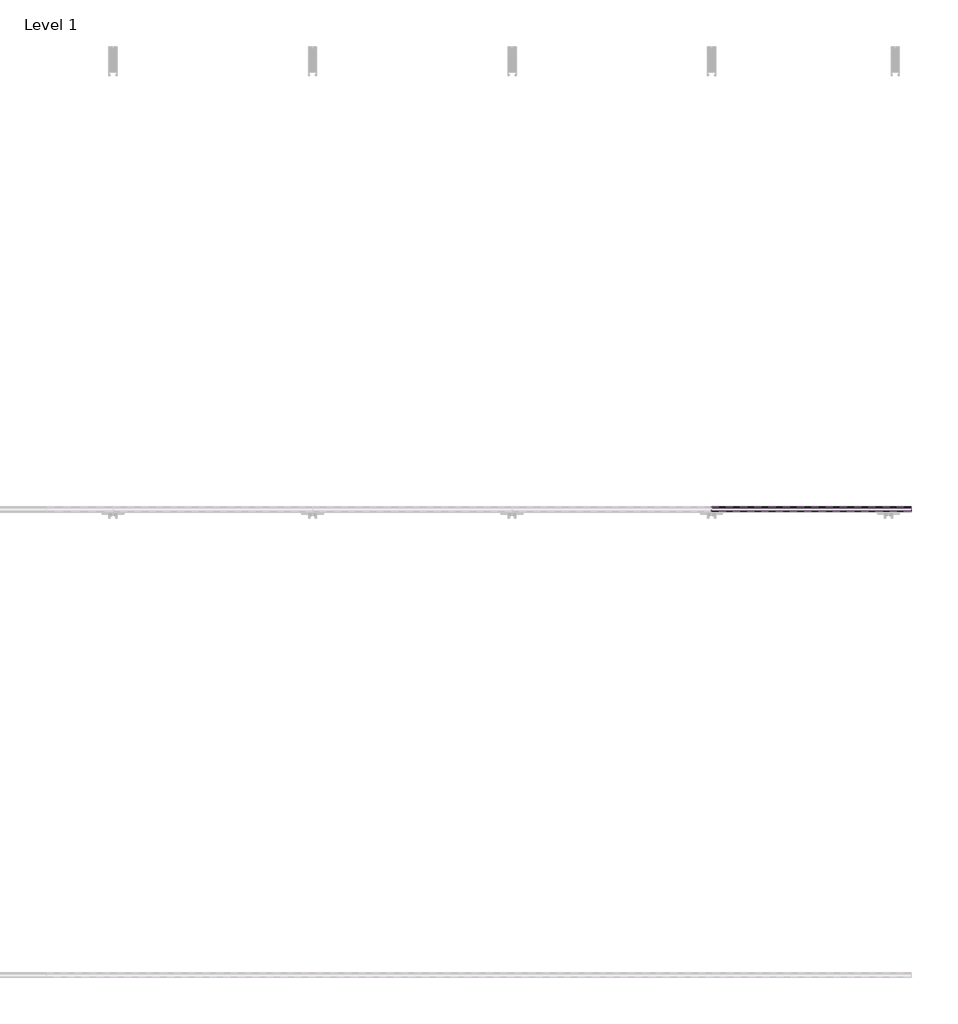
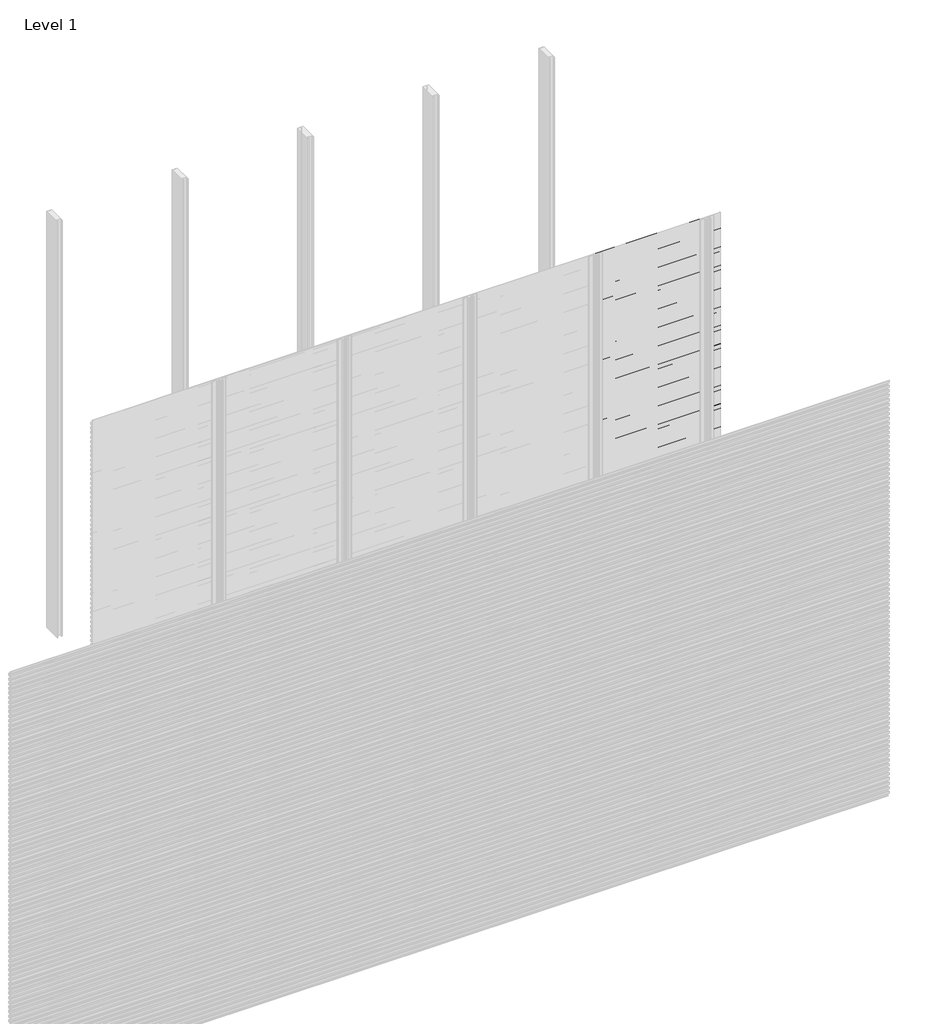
# One storey, part 12 of 96: 76 proxies.
"""IFC4 building model written with IfcOpenShell, lengths in millimetres."""

from ifc_helpers import new_model, si_unit, frame, origin, place, context, project, spatial, polyline, outline, extrude, element, save

model = new_model("IFC4")

# Units and contexts
model_context = context("Model", 3, world=origin())
ifc_project = project(units=[si_unit("LENGTHUNIT", "METRE", prefix="MILLI")], contexts=[model_context])

# Site, building, storey
site = spatial("IfcSite", under=ifc_project)
building = spatial("IfcBuilding", under=site)
storey = spatial("IfcBuildingStorey", under=building, Name="Level 1", Elevation=0.0)

# Proxies
placement = place(None, origin())
element("IfcBuildingElementProxy", 1, Name="Wall Sweeps", at=placement, inside=storey, context=model_context, shape_type="SweptSolid", body=[
    extrude(outline(polyline([(-53977.6, 107.9655033), (-53977.6, 93.6779188), (-53982.4114965, 90.9), (-53982.4114965, 92.1701706), (-53978.85, 94.2264016), (-53978.85, 107.2437382), (-53998.0, 118.3000799), (-53998.0, 133.2), (-53996.75, 133.2), (-53996.75, 119.0217609), (-53977.6, 107.9655033)])), frame((4285.7142857, 0.0, 0.0), z_axis=(1.0, 0.0, 0.0), x_axis=(0.0, 1.0, 0.0)), (0.0, 0.0, 1.0), 857.1428571),
])
element("IfcBuildingElementProxy", 2, Name="Wall Sweeps", at=placement, inside=storey, context=model_context, shape_type="SweptSolid", body=[
    extrude(outline(polyline([(-53977.6, 74.6655033), (-53977.6, 60.3779188), (-53982.4114965, 57.6), (-53982.4114965, 58.8701706), (-53978.85, 60.9264016), (-53978.85, 73.9437382), (-53998.0, 85.0000799), (-53998.0, 99.9), (-53996.75, 99.9), (-53996.75, 85.7217609), (-53977.6, 74.6655033)])), frame((4285.7142857, 0.0, 0.0), z_axis=(1.0, 0.0, 0.0), x_axis=(0.0, 1.0, 0.0)), (0.0, 0.0, 1.0), 857.1428571),
])
element("IfcBuildingElementProxy", 3, Name="Wall Sweeps", at=placement, inside=storey, context=model_context, shape_type="SweptSolid", body=[
    extrude(outline(polyline([(-53977.6, 41.3655033), (-53977.6, 27.0779188), (-53982.4114965, 24.3), (-53982.4114965, 25.5701706), (-53978.85, 27.6264016), (-53978.85, 40.6437382), (-53998.0, 51.7000799), (-53998.0, 66.6), (-53996.75, 66.6), (-53996.75, 52.4217609), (-53977.6, 41.3655033)])), frame((4285.7142857, 0.0, 0.0), z_axis=(1.0, 0.0, 0.0), x_axis=(0.0, 1.0, 0.0)), (0.0, 0.0, 1.0), 857.1428571),
])
element("IfcBuildingElementProxy", 4, Name="Wall Sweeps", at=placement, inside=storey, context=model_context, shape_type="SweptSolid", body=[
    extrude(outline(polyline([(-53977.6, 8.0655033), (-53977.6, -6.2220812), (-53982.4114965, -9.0), (-53982.4114965, -7.7298294), (-53978.85, -5.6735984), (-53978.85, 7.3437382), (-53998.0, 18.4000799), (-53998.0, 33.3), (-53996.75, 33.3), (-53996.75, 19.1217609), (-53977.6, 8.0655033)])), frame((4285.7142857, 0.0, 0.0), z_axis=(1.0, 0.0, 0.0), x_axis=(0.0, 1.0, 0.0)), (0.0, 0.0, 1.0), 857.1428571),
])
element("IfcBuildingElementProxy", 5, Name="Wall Sweeps", at=placement, inside=storey, context=model_context, shape_type="SweptSolid", body=[
    extrude(outline(polyline([(-53977.6, 2971.7655033), (-53977.6, 2957.4779188), (-53982.4114965, 2954.7), (-53982.4114965, 2955.9701706), (-53978.85, 2958.0264016), (-53978.85, 2971.0437382), (-53998.0, 2982.1000799), (-53998.0, 2997.0), (-53996.75, 2997.0), (-53996.75, 2982.8217609), (-53977.6, 2971.7655033)])), frame((5142.8571429, 0.0, 0.0), z_axis=(1.0, 0.0, 0.0), x_axis=(0.0, 1.0, 0.0)), (0.0, 0.0, 1.0), 857.1428571),
])
element("IfcBuildingElementProxy", 6, Name="Wall Sweeps", at=placement, inside=storey, context=model_context, shape_type="SweptSolid", body=[
    extrude(outline(polyline([(-53977.6, 2938.4655033), (-53977.6, 2924.1779188), (-53982.4114965, 2921.4), (-53982.4114965, 2922.6701706), (-53978.85, 2924.7264016), (-53978.85, 2937.7437382), (-53998.0, 2948.8000799), (-53998.0, 2963.7), (-53996.75, 2963.7), (-53996.75, 2949.5217609), (-53977.6, 2938.4655033)])), frame((5142.8571429, 0.0, 0.0), z_axis=(1.0, 0.0, 0.0), x_axis=(0.0, 1.0, 0.0)), (0.0, 0.0, 1.0), 857.1428571),
])
element("IfcBuildingElementProxy", 7, Name="Wall Sweeps", at=placement, inside=storey, context=model_context, shape_type="SweptSolid", body=[
    extrude(outline(polyline([(-53977.6, 2905.1655033), (-53977.6, 2890.8779188), (-53982.4114965, 2888.1), (-53982.4114965, 2889.3701706), (-53978.85, 2891.4264016), (-53978.85, 2904.4437382), (-53998.0, 2915.5000799), (-53998.0, 2930.4), (-53996.75, 2930.4), (-53996.75, 2916.2217609), (-53977.6, 2905.1655033)])), frame((5142.8571429, 0.0, 0.0), z_axis=(1.0, 0.0, 0.0), x_axis=(0.0, 1.0, 0.0)), (0.0, 0.0, 1.0), 857.1428571),
])
element("IfcBuildingElementProxy", 8, Name="Wall Sweeps", at=placement, inside=storey, context=model_context, shape_type="SweptSolid", body=[
    extrude(outline(polyline([(-53977.6, 2871.8655033), (-53977.6, 2857.5779188), (-53982.4114965, 2854.8), (-53982.4114965, 2856.0701706), (-53978.85, 2858.1264016), (-53978.85, 2871.1437382), (-53998.0, 2882.2000799), (-53998.0, 2897.1), (-53996.75, 2897.1), (-53996.75, 2882.9217609), (-53977.6, 2871.8655033)])), frame((5142.8571429, 0.0, 0.0), z_axis=(1.0, 0.0, 0.0), x_axis=(0.0, 1.0, 0.0)), (0.0, 0.0, 1.0), 857.1428571),
])
element("IfcBuildingElementProxy", 9, Name="Wall Sweeps", at=placement, inside=storey, context=model_context, shape_type="SweptSolid", body=[
    extrude(outline(polyline([(-53977.6, 2838.5655033), (-53977.6, 2824.2779188), (-53982.4114965, 2821.5), (-53982.4114965, 2822.7701706), (-53978.85, 2824.8264016), (-53978.85, 2837.8437382), (-53998.0, 2848.9000799), (-53998.0, 2863.8), (-53996.75, 2863.8), (-53996.75, 2849.6217609), (-53977.6, 2838.5655033)])), frame((5142.8571429, 0.0, 0.0), z_axis=(1.0, 0.0, 0.0), x_axis=(0.0, 1.0, 0.0)), (0.0, 0.0, 1.0), 857.1428571),
])
element("IfcBuildingElementProxy", 10, Name="Wall Sweeps", at=placement, inside=storey, context=model_context, shape_type="SweptSolid", body=[
    extrude(outline(polyline([(-53977.6, 2805.2655033), (-53977.6, 2790.9779188), (-53982.4114965, 2788.2), (-53982.4114965, 2789.4701706), (-53978.85, 2791.5264016), (-53978.85, 2804.5437382), (-53998.0, 2815.6000799), (-53998.0, 2830.5), (-53996.75, 2830.5), (-53996.75, 2816.3217609), (-53977.6, 2805.2655033)])), frame((5142.8571429, 0.0, 0.0), z_axis=(1.0, 0.0, 0.0), x_axis=(0.0, 1.0, 0.0)), (0.0, 0.0, 1.0), 857.1428571),
])
element("IfcBuildingElementProxy", 11, Name="Wall Sweeps", at=placement, inside=storey, context=model_context, shape_type="SweptSolid", body=[
    extrude(outline(polyline([(-53977.6, 2771.9655033), (-53977.6, 2757.6779188), (-53982.4114965, 2754.9), (-53982.4114965, 2756.1701706), (-53978.85, 2758.2264016), (-53978.85, 2771.2437382), (-53998.0, 2782.3000799), (-53998.0, 2797.2), (-53996.75, 2797.2), (-53996.75, 2783.0217609), (-53977.6, 2771.9655033)])), frame((5142.8571429, 0.0, 0.0), z_axis=(1.0, 0.0, 0.0), x_axis=(0.0, 1.0, 0.0)), (0.0, 0.0, 1.0), 857.1428571),
])
element("IfcBuildingElementProxy", 12, Name="Wall Sweeps", at=placement, inside=storey, context=model_context, shape_type="SweptSolid", body=[
    extrude(outline(polyline([(-53977.6, 2738.6655033), (-53977.6, 2724.3779188), (-53982.4114965, 2721.6), (-53982.4114965, 2722.8701706), (-53978.85, 2724.9264016), (-53978.85, 2737.9437382), (-53998.0, 2749.0000799), (-53998.0, 2763.9), (-53996.75, 2763.9), (-53996.75, 2749.7217609), (-53977.6, 2738.6655033)])), frame((5142.8571429, 0.0, 0.0), z_axis=(1.0, 0.0, 0.0), x_axis=(0.0, 1.0, 0.0)), (0.0, 0.0, 1.0), 857.1428571),
])
element("IfcBuildingElementProxy", 13, Name="Wall Sweeps", at=placement, inside=storey, context=model_context, shape_type="SweptSolid", body=[
    extrude(outline(polyline([(-53977.6, 2705.3655033), (-53977.6, 2691.0779188), (-53982.4114965, 2688.3), (-53982.4114965, 2689.5701706), (-53978.85, 2691.6264016), (-53978.85, 2704.6437382), (-53998.0, 2715.7000799), (-53998.0, 2730.6), (-53996.75, 2730.6), (-53996.75, 2716.4217609), (-53977.6, 2705.3655033)])), frame((5142.8571429, 0.0, 0.0), z_axis=(1.0, 0.0, 0.0), x_axis=(0.0, 1.0, 0.0)), (0.0, 0.0, 1.0), 857.1428571),
])
element("IfcBuildingElementProxy", 14, Name="Wall Sweeps", at=placement, inside=storey, context=model_context, shape_type="SweptSolid", body=[
    extrude(outline(polyline([(-53977.6, 2672.0655033), (-53977.6, 2657.7779188), (-53982.4114965, 2655.0), (-53982.4114965, 2656.2701706), (-53978.85, 2658.3264016), (-53978.85, 2671.3437382), (-53998.0, 2682.4000799), (-53998.0, 2697.3), (-53996.75, 2697.3), (-53996.75, 2683.1217609), (-53977.6, 2672.0655033)])), frame((5142.8571429, 0.0, 0.0), z_axis=(1.0, 0.0, 0.0), x_axis=(0.0, 1.0, 0.0)), (0.0, 0.0, 1.0), 857.1428571),
])
element("IfcBuildingElementProxy", 15, Name="Wall Sweeps", at=placement, inside=storey, context=model_context, shape_type="SweptSolid", body=[
    extrude(outline(polyline([(-53977.6, 2638.7655033), (-53977.6, 2624.4779188), (-53982.4114965, 2621.7), (-53982.4114965, 2622.9701706), (-53978.85, 2625.0264016), (-53978.85, 2638.0437382), (-53998.0, 2649.1000799), (-53998.0, 2664.0), (-53996.75, 2664.0), (-53996.75, 2649.8217609), (-53977.6, 2638.7655033)])), frame((5142.8571429, 0.0, 0.0), z_axis=(1.0, 0.0, 0.0), x_axis=(0.0, 1.0, 0.0)), (0.0, 0.0, 1.0), 857.1428571),
])
element("IfcBuildingElementProxy", 16, Name="Wall Sweeps", at=placement, inside=storey, context=model_context, shape_type="SweptSolid", body=[
    extrude(outline(polyline([(-53977.6, 2605.4655033), (-53977.6, 2591.1779188), (-53982.4114965, 2588.4), (-53982.4114965, 2589.6701706), (-53978.85, 2591.7264016), (-53978.85, 2604.7437382), (-53998.0, 2615.8000799), (-53998.0, 2630.7), (-53996.75, 2630.7), (-53996.75, 2616.5217609), (-53977.6, 2605.4655033)])), frame((5142.8571429, 0.0, 0.0), z_axis=(1.0, 0.0, 0.0), x_axis=(0.0, 1.0, 0.0)), (0.0, 0.0, 1.0), 857.1428571),
])
element("IfcBuildingElementProxy", 17, Name="Wall Sweeps", at=placement, inside=storey, context=model_context, shape_type="SweptSolid", body=[
    extrude(outline(polyline([(-53977.6, 2572.1655033), (-53977.6, 2557.8779188), (-53982.4114965, 2555.1), (-53982.4114965, 2556.3701706), (-53978.85, 2558.4264016), (-53978.85, 2571.4437382), (-53998.0, 2582.5000799), (-53998.0, 2597.4), (-53996.75, 2597.4), (-53996.75, 2583.2217609), (-53977.6, 2572.1655033)])), frame((5142.8571429, 0.0, 0.0), z_axis=(1.0, 0.0, 0.0), x_axis=(0.0, 1.0, 0.0)), (0.0, 0.0, 1.0), 857.1428571),
])
element("IfcBuildingElementProxy", 18, Name="Wall Sweeps", at=placement, inside=storey, context=model_context, shape_type="SweptSolid", body=[
    extrude(outline(polyline([(-53977.6, 2538.8655033), (-53977.6, 2524.5779188), (-53982.4114965, 2521.8), (-53982.4114965, 2523.0701706), (-53978.85, 2525.1264016), (-53978.85, 2538.1437382), (-53998.0, 2549.2000799), (-53998.0, 2564.1), (-53996.75, 2564.1), (-53996.75, 2549.9217609), (-53977.6, 2538.8655033)])), frame((5142.8571429, 0.0, 0.0), z_axis=(1.0, 0.0, 0.0), x_axis=(0.0, 1.0, 0.0)), (0.0, 0.0, 1.0), 857.1428571),
])
element("IfcBuildingElementProxy", 19, Name="Wall Sweeps", at=placement, inside=storey, context=model_context, shape_type="SweptSolid", body=[
    extrude(outline(polyline([(-53977.6, 2505.5655033), (-53977.6, 2491.2779188), (-53982.4114965, 2488.5), (-53982.4114965, 2489.7701706), (-53978.85, 2491.8264016), (-53978.85, 2504.8437382), (-53998.0, 2515.9000799), (-53998.0, 2530.8), (-53996.75, 2530.8), (-53996.75, 2516.6217609), (-53977.6, 2505.5655033)])), frame((5142.8571429, 0.0, 0.0), z_axis=(1.0, 0.0, 0.0), x_axis=(0.0, 1.0, 0.0)), (0.0, 0.0, 1.0), 857.1428571),
])
element("IfcBuildingElementProxy", 20, Name="Wall Sweeps", at=placement, inside=storey, context=model_context, shape_type="SweptSolid", body=[
    extrude(outline(polyline([(-53977.6, 2472.2655033), (-53977.6, 2457.9779188), (-53982.4114965, 2455.2), (-53982.4114965, 2456.4701706), (-53978.85, 2458.5264016), (-53978.85, 2471.5437382), (-53998.0, 2482.6000799), (-53998.0, 2497.5), (-53996.75, 2497.5), (-53996.75, 2483.3217609), (-53977.6, 2472.2655033)])), frame((5142.8571429, 0.0, 0.0), z_axis=(1.0, 0.0, 0.0), x_axis=(0.0, 1.0, 0.0)), (0.0, 0.0, 1.0), 857.1428571),
])
element("IfcBuildingElementProxy", 21, Name="Wall Sweeps", at=placement, inside=storey, context=model_context, shape_type="SweptSolid", body=[
    extrude(outline(polyline([(-53977.6, 2438.9655033), (-53977.6, 2424.6779188), (-53982.4114965, 2421.9), (-53982.4114965, 2423.1701706), (-53978.85, 2425.2264016), (-53978.85, 2438.2437382), (-53998.0, 2449.3000799), (-53998.0, 2464.2), (-53996.75, 2464.2), (-53996.75, 2450.0217609), (-53977.6, 2438.9655033)])), frame((5142.8571429, 0.0, 0.0), z_axis=(1.0, 0.0, 0.0), x_axis=(0.0, 1.0, 0.0)), (0.0, 0.0, 1.0), 857.1428571),
])
element("IfcBuildingElementProxy", 22, Name="Wall Sweeps", at=placement, inside=storey, context=model_context, shape_type="SweptSolid", body=[
    extrude(outline(polyline([(-53977.6, 2405.6655033), (-53977.6, 2391.3779188), (-53982.4114965, 2388.6), (-53982.4114965, 2389.8701706), (-53978.85, 2391.9264016), (-53978.85, 2404.9437382), (-53998.0, 2416.0000799), (-53998.0, 2430.9), (-53996.75, 2430.9), (-53996.75, 2416.7217609), (-53977.6, 2405.6655033)])), frame((5142.8571429, 0.0, 0.0), z_axis=(1.0, 0.0, 0.0), x_axis=(0.0, 1.0, 0.0)), (0.0, 0.0, 1.0), 857.1428571),
])
element("IfcBuildingElementProxy", 23, Name="Wall Sweeps", at=placement, inside=storey, context=model_context, shape_type="SweptSolid", body=[
    extrude(outline(polyline([(-53977.6, 2372.3655033), (-53977.6, 2358.0779188), (-53982.4114965, 2355.3), (-53982.4114965, 2356.5701706), (-53978.85, 2358.6264016), (-53978.85, 2371.6437382), (-53998.0, 2382.7000799), (-53998.0, 2397.6), (-53996.75, 2397.6), (-53996.75, 2383.4217609), (-53977.6, 2372.3655033)])), frame((5142.8571429, 0.0, 0.0), z_axis=(1.0, 0.0, 0.0), x_axis=(0.0, 1.0, 0.0)), (0.0, 0.0, 1.0), 857.1428571),
])
element("IfcBuildingElementProxy", 24, Name="Wall Sweeps", at=placement, inside=storey, context=model_context, shape_type="SweptSolid", body=[
    extrude(outline(polyline([(-53977.6, 2339.0655033), (-53977.6, 2324.7779188), (-53982.4114965, 2322.0), (-53982.4114965, 2323.2701706), (-53978.85, 2325.3264016), (-53978.85, 2338.3437382), (-53998.0, 2349.4000799), (-53998.0, 2364.3), (-53996.75, 2364.3), (-53996.75, 2350.1217609), (-53977.6, 2339.0655033)])), frame((5142.8571429, 0.0, 0.0), z_axis=(1.0, 0.0, 0.0), x_axis=(0.0, 1.0, 0.0)), (0.0, 0.0, 1.0), 857.1428571),
])
element("IfcBuildingElementProxy", 25, Name="Wall Sweeps", at=placement, inside=storey, context=model_context, shape_type="SweptSolid", body=[
    extrude(outline(polyline([(-53977.6, 2305.7655033), (-53977.6, 2291.4779188), (-53982.4114965, 2288.7), (-53982.4114965, 2289.9701706), (-53978.85, 2292.0264016), (-53978.85, 2305.0437382), (-53998.0, 2316.1000799), (-53998.0, 2331.0), (-53996.75, 2331.0), (-53996.75, 2316.8217609), (-53977.6, 2305.7655033)])), frame((5142.8571429, 0.0, 0.0), z_axis=(1.0, 0.0, 0.0), x_axis=(0.0, 1.0, 0.0)), (0.0, 0.0, 1.0), 857.1428571),
])
element("IfcBuildingElementProxy", 26, Name="Wall Sweeps", at=placement, inside=storey, context=model_context, shape_type="SweptSolid", body=[
    extrude(outline(polyline([(-53977.6, 2272.4655033), (-53977.6, 2258.1779188), (-53982.4114965, 2255.4), (-53982.4114965, 2256.6701706), (-53978.85, 2258.7264016), (-53978.85, 2271.7437382), (-53998.0, 2282.8000799), (-53998.0, 2297.7), (-53996.75, 2297.7), (-53996.75, 2283.5217609), (-53977.6, 2272.4655033)])), frame((5142.8571429, 0.0, 0.0), z_axis=(1.0, 0.0, 0.0), x_axis=(0.0, 1.0, 0.0)), (0.0, 0.0, 1.0), 857.1428571),
])
element("IfcBuildingElementProxy", 27, Name="Wall Sweeps", at=placement, inside=storey, context=model_context, shape_type="SweptSolid", body=[
    extrude(outline(polyline([(-53977.6, 2239.1655033), (-53977.6, 2224.8779188), (-53982.4114965, 2222.1), (-53982.4114965, 2223.3701706), (-53978.85, 2225.4264016), (-53978.85, 2238.4437382), (-53998.0, 2249.5000799), (-53998.0, 2264.4), (-53996.75, 2264.4), (-53996.75, 2250.2217609), (-53977.6, 2239.1655033)])), frame((5142.8571429, 0.0, 0.0), z_axis=(1.0, 0.0, 0.0), x_axis=(0.0, 1.0, 0.0)), (0.0, 0.0, 1.0), 857.1428571),
])
element("IfcBuildingElementProxy", 28, Name="Wall Sweeps", at=placement, inside=storey, context=model_context, shape_type="SweptSolid", body=[
    extrude(outline(polyline([(-53977.6, 2205.8655033), (-53977.6, 2191.5779188), (-53982.4114965, 2188.8), (-53982.4114965, 2190.0701706), (-53978.85, 2192.1264016), (-53978.85, 2205.1437382), (-53998.0, 2216.2000799), (-53998.0, 2231.1), (-53996.75, 2231.1), (-53996.75, 2216.9217609), (-53977.6, 2205.8655033)])), frame((5142.8571429, 0.0, 0.0), z_axis=(1.0, 0.0, 0.0), x_axis=(0.0, 1.0, 0.0)), (0.0, 0.0, 1.0), 857.1428571),
])
element("IfcBuildingElementProxy", 29, Name="Wall Sweeps", at=placement, inside=storey, context=model_context, shape_type="SweptSolid", body=[
    extrude(outline(polyline([(-53977.6, 2172.5655033), (-53977.6, 2158.2779188), (-53982.4114965, 2155.5), (-53982.4114965, 2156.7701706), (-53978.85, 2158.8264016), (-53978.85, 2171.8437382), (-53998.0, 2182.9000799), (-53998.0, 2197.8), (-53996.75, 2197.8), (-53996.75, 2183.6217609), (-53977.6, 2172.5655033)])), frame((5142.8571429, 0.0, 0.0), z_axis=(1.0, 0.0, 0.0), x_axis=(0.0, 1.0, 0.0)), (0.0, 0.0, 1.0), 857.1428571),
])
element("IfcBuildingElementProxy", 30, Name="Wall Sweeps", at=placement, inside=storey, context=model_context, shape_type="SweptSolid", body=[
    extrude(outline(polyline([(-53977.6, 2139.2655033), (-53977.6, 2124.9779188), (-53982.4114965, 2122.2), (-53982.4114965, 2123.4701706), (-53978.85, 2125.5264016), (-53978.85, 2138.5437382), (-53998.0, 2149.6000799), (-53998.0, 2164.5), (-53996.75, 2164.5), (-53996.75, 2150.3217609), (-53977.6, 2139.2655033)])), frame((5142.8571429, 0.0, 0.0), z_axis=(1.0, 0.0, 0.0), x_axis=(0.0, 1.0, 0.0)), (0.0, 0.0, 1.0), 857.1428571),
])
element("IfcBuildingElementProxy", 31, Name="Wall Sweeps", at=placement, inside=storey, context=model_context, shape_type="SweptSolid", body=[
    extrude(outline(polyline([(-53977.6, 2105.9655033), (-53977.6, 2091.6779188), (-53982.4114965, 2088.9), (-53982.4114965, 2090.1701706), (-53978.85, 2092.2264016), (-53978.85, 2105.2437382), (-53998.0, 2116.3000799), (-53998.0, 2131.2), (-53996.75, 2131.2), (-53996.75, 2117.0217609), (-53977.6, 2105.9655033)])), frame((5142.8571429, 0.0, 0.0), z_axis=(1.0, 0.0, 0.0), x_axis=(0.0, 1.0, 0.0)), (0.0, 0.0, 1.0), 857.1428571),
])
element("IfcBuildingElementProxy", 32, Name="Wall Sweeps", at=placement, inside=storey, context=model_context, shape_type="SweptSolid", body=[
    extrude(outline(polyline([(-53977.6, 2072.6655033), (-53977.6, 2058.3779188), (-53982.4114965, 2055.6), (-53982.4114965, 2056.8701706), (-53978.85, 2058.9264016), (-53978.85, 2071.9437382), (-53998.0, 2083.0000799), (-53998.0, 2097.9), (-53996.75, 2097.9), (-53996.75, 2083.7217609), (-53977.6, 2072.6655033)])), frame((5142.8571429, 0.0, 0.0), z_axis=(1.0, 0.0, 0.0), x_axis=(0.0, 1.0, 0.0)), (0.0, 0.0, 1.0), 857.1428571),
])
element("IfcBuildingElementProxy", 33, Name="Wall Sweeps", at=placement, inside=storey, context=model_context, shape_type="SweptSolid", body=[
    extrude(outline(polyline([(-53977.6, 2039.3655033), (-53977.6, 2025.0779188), (-53982.4114965, 2022.3), (-53982.4114965, 2023.5701706), (-53978.85, 2025.6264016), (-53978.85, 2038.6437382), (-53998.0, 2049.7000799), (-53998.0, 2064.6), (-53996.75, 2064.6), (-53996.75, 2050.4217609), (-53977.6, 2039.3655033)])), frame((5142.8571429, 0.0, 0.0), z_axis=(1.0, 0.0, 0.0), x_axis=(0.0, 1.0, 0.0)), (0.0, 0.0, 1.0), 857.1428571),
])
element("IfcBuildingElementProxy", 34, Name="Wall Sweeps", at=placement, inside=storey, context=model_context, shape_type="SweptSolid", body=[
    extrude(outline(polyline([(-53977.6, 2006.0655033), (-53977.6, 1991.7779188), (-53982.4114965, 1989.0), (-53982.4114965, 1990.2701706), (-53978.85, 1992.3264016), (-53978.85, 2005.3437382), (-53998.0, 2016.4000799), (-53998.0, 2031.3), (-53996.75, 2031.3), (-53996.75, 2017.1217609), (-53977.6, 2006.0655033)])), frame((5142.8571429, 0.0, 0.0), z_axis=(1.0, 0.0, 0.0), x_axis=(0.0, 1.0, 0.0)), (0.0, 0.0, 1.0), 857.1428571),
])
element("IfcBuildingElementProxy", 35, Name="Wall Sweeps", at=placement, inside=storey, context=model_context, shape_type="SweptSolid", body=[
    extrude(outline(polyline([(-53977.6, 1972.7655033), (-53977.6, 1958.4779188), (-53982.4114965, 1955.7), (-53982.4114965, 1956.9701706), (-53978.85, 1959.0264016), (-53978.85, 1972.0437382), (-53998.0, 1983.1000799), (-53998.0, 1998.0), (-53996.75, 1998.0), (-53996.75, 1983.8217609), (-53977.6, 1972.7655033)])), frame((5142.8571429, 0.0, 0.0), z_axis=(1.0, 0.0, 0.0), x_axis=(0.0, 1.0, 0.0)), (0.0, 0.0, 1.0), 857.1428571),
])
element("IfcBuildingElementProxy", 36, Name="Wall Sweeps", at=placement, inside=storey, context=model_context, shape_type="SweptSolid", body=[
    extrude(outline(polyline([(-53977.6, 1939.4655033), (-53977.6, 1925.1779188), (-53982.4114965, 1922.4), (-53982.4114965, 1923.6701706), (-53978.85, 1925.7264016), (-53978.85, 1938.7437382), (-53998.0, 1949.8000799), (-53998.0, 1964.7), (-53996.75, 1964.7), (-53996.75, 1950.5217609), (-53977.6, 1939.4655033)])), frame((5142.8571429, 0.0, 0.0), z_axis=(1.0, 0.0, 0.0), x_axis=(0.0, 1.0, 0.0)), (0.0, 0.0, 1.0), 857.1428571),
])
element("IfcBuildingElementProxy", 37, Name="Wall Sweeps", at=placement, inside=storey, context=model_context, shape_type="SweptSolid", body=[
    extrude(outline(polyline([(-53977.6, 1906.1655033), (-53977.6, 1891.8779188), (-53982.4114965, 1889.1), (-53982.4114965, 1890.3701706), (-53978.85, 1892.4264016), (-53978.85, 1905.4437382), (-53998.0, 1916.5000799), (-53998.0, 1931.4), (-53996.75, 1931.4), (-53996.75, 1917.2217609), (-53977.6, 1906.1655033)])), frame((5142.8571429, 0.0, 0.0), z_axis=(1.0, 0.0, 0.0), x_axis=(0.0, 1.0, 0.0)), (0.0, 0.0, 1.0), 857.1428571),
])
element("IfcBuildingElementProxy", 38, Name="Wall Sweeps", at=placement, inside=storey, context=model_context, shape_type="SweptSolid", body=[
    extrude(outline(polyline([(-53977.6, 1872.8655033), (-53977.6, 1858.5779188), (-53982.4114965, 1855.8), (-53982.4114965, 1857.0701706), (-53978.85, 1859.1264016), (-53978.85, 1872.1437382), (-53998.0, 1883.2000799), (-53998.0, 1898.1), (-53996.75, 1898.1), (-53996.75, 1883.9217609), (-53977.6, 1872.8655033)])), frame((5142.8571429, 0.0, 0.0), z_axis=(1.0, 0.0, 0.0), x_axis=(0.0, 1.0, 0.0)), (0.0, 0.0, 1.0), 857.1428571),
])
element("IfcBuildingElementProxy", 39, Name="Wall Sweeps", at=placement, inside=storey, context=model_context, shape_type="SweptSolid", body=[
    extrude(outline(polyline([(-53977.6, 1839.5655033), (-53977.6, 1825.2779188), (-53982.4114965, 1822.5), (-53982.4114965, 1823.7701706), (-53978.85, 1825.8264016), (-53978.85, 1838.8437382), (-53998.0, 1849.9000799), (-53998.0, 1864.8), (-53996.75, 1864.8), (-53996.75, 1850.6217609), (-53977.6, 1839.5655033)])), frame((5142.8571429, 0.0, 0.0), z_axis=(1.0, 0.0, 0.0), x_axis=(0.0, 1.0, 0.0)), (0.0, 0.0, 1.0), 857.1428571),
])
element("IfcBuildingElementProxy", 40, Name="Wall Sweeps", at=placement, inside=storey, context=model_context, shape_type="SweptSolid", body=[
    extrude(outline(polyline([(-53977.6, 1806.2655033), (-53977.6, 1791.9779188), (-53982.4114965, 1789.2), (-53982.4114965, 1790.4701706), (-53978.85, 1792.5264016), (-53978.85, 1805.5437382), (-53998.0, 1816.6000799), (-53998.0, 1831.5), (-53996.75, 1831.5), (-53996.75, 1817.3217609), (-53977.6, 1806.2655033)])), frame((5142.8571429, 0.0, 0.0), z_axis=(1.0, 0.0, 0.0), x_axis=(0.0, 1.0, 0.0)), (0.0, 0.0, 1.0), 857.1428571),
])
element("IfcBuildingElementProxy", 41, Name="Wall Sweeps", at=placement, inside=storey, context=model_context, shape_type="SweptSolid", body=[
    extrude(outline(polyline([(-53977.6, 1772.9655033), (-53977.6, 1758.6779188), (-53982.4114965, 1755.9), (-53982.4114965, 1757.1701706), (-53978.85, 1759.2264016), (-53978.85, 1772.2437382), (-53998.0, 1783.3000799), (-53998.0, 1798.2), (-53996.75, 1798.2), (-53996.75, 1784.0217609), (-53977.6, 1772.9655033)])), frame((5142.8571429, 0.0, 0.0), z_axis=(1.0, 0.0, 0.0), x_axis=(0.0, 1.0, 0.0)), (0.0, 0.0, 1.0), 857.1428571),
])
element("IfcBuildingElementProxy", 42, Name="Wall Sweeps", at=placement, inside=storey, context=model_context, shape_type="SweptSolid", body=[
    extrude(outline(polyline([(-53977.6, 1739.6655033), (-53977.6, 1725.3779188), (-53982.4114965, 1722.6), (-53982.4114965, 1723.8701706), (-53978.85, 1725.9264016), (-53978.85, 1738.9437382), (-53998.0, 1750.0000799), (-53998.0, 1764.9), (-53996.75, 1764.9), (-53996.75, 1750.7217609), (-53977.6, 1739.6655033)])), frame((5142.8571429, 0.0, 0.0), z_axis=(1.0, 0.0, 0.0), x_axis=(0.0, 1.0, 0.0)), (0.0, 0.0, 1.0), 857.1428571),
])
element("IfcBuildingElementProxy", 43, Name="Wall Sweeps", at=placement, inside=storey, context=model_context, shape_type="SweptSolid", body=[
    extrude(outline(polyline([(-53977.6, 1706.3655033), (-53977.6, 1692.0779188), (-53982.4114965, 1689.3), (-53982.4114965, 1690.5701706), (-53978.85, 1692.6264016), (-53978.85, 1705.6437382), (-53998.0, 1716.7000799), (-53998.0, 1731.6), (-53996.75, 1731.6), (-53996.75, 1717.4217609), (-53977.6, 1706.3655033)])), frame((5142.8571429, 0.0, 0.0), z_axis=(1.0, 0.0, 0.0), x_axis=(0.0, 1.0, 0.0)), (0.0, 0.0, 1.0), 857.1428571),
])
element("IfcBuildingElementProxy", 44, Name="Wall Sweeps", at=placement, inside=storey, context=model_context, shape_type="SweptSolid", body=[
    extrude(outline(polyline([(-53977.6, 1673.0655033), (-53977.6, 1658.7779188), (-53982.4114965, 1656.0), (-53982.4114965, 1657.2701706), (-53978.85, 1659.3264016), (-53978.85, 1672.3437382), (-53998.0, 1683.4000799), (-53998.0, 1698.3), (-53996.75, 1698.3), (-53996.75, 1684.1217609), (-53977.6, 1673.0655033)])), frame((5142.8571429, 0.0, 0.0), z_axis=(1.0, 0.0, 0.0), x_axis=(0.0, 1.0, 0.0)), (0.0, 0.0, 1.0), 857.1428571),
])
element("IfcBuildingElementProxy", 45, Name="Wall Sweeps", at=placement, inside=storey, context=model_context, shape_type="SweptSolid", body=[
    extrude(outline(polyline([(-53977.6, 1639.7655033), (-53977.6, 1625.4779188), (-53982.4114965, 1622.7), (-53982.4114965, 1623.9701706), (-53978.85, 1626.0264016), (-53978.85, 1639.0437382), (-53998.0, 1650.1000799), (-53998.0, 1665.0), (-53996.75, 1665.0), (-53996.75, 1650.8217609), (-53977.6, 1639.7655033)])), frame((5142.8571429, 0.0, 0.0), z_axis=(1.0, 0.0, 0.0), x_axis=(0.0, 1.0, 0.0)), (0.0, 0.0, 1.0), 857.1428571),
])
element("IfcBuildingElementProxy", 46, Name="Wall Sweeps", at=placement, inside=storey, context=model_context, shape_type="SweptSolid", body=[
    extrude(outline(polyline([(-53977.6, 1606.4655033), (-53977.6, 1592.1779188), (-53982.4114965, 1589.4), (-53982.4114965, 1590.6701706), (-53978.85, 1592.7264016), (-53978.85, 1605.7437382), (-53998.0, 1616.8000799), (-53998.0, 1631.7), (-53996.75, 1631.7), (-53996.75, 1617.5217609), (-53977.6, 1606.4655033)])), frame((5142.8571429, 0.0, 0.0), z_axis=(1.0, 0.0, 0.0), x_axis=(0.0, 1.0, 0.0)), (0.0, 0.0, 1.0), 857.1428571),
])
element("IfcBuildingElementProxy", 47, Name="Wall Sweeps", at=placement, inside=storey, context=model_context, shape_type="SweptSolid", body=[
    extrude(outline(polyline([(-53977.6, 1573.1655033), (-53977.6, 1558.8779188), (-53982.4114965, 1556.1), (-53982.4114965, 1557.3701706), (-53978.85, 1559.4264016), (-53978.85, 1572.4437382), (-53998.0, 1583.5000799), (-53998.0, 1598.4), (-53996.75, 1598.4), (-53996.75, 1584.2217609), (-53977.6, 1573.1655033)])), frame((5142.8571429, 0.0, 0.0), z_axis=(1.0, 0.0, 0.0), x_axis=(0.0, 1.0, 0.0)), (0.0, 0.0, 1.0), 857.1428571),
])
element("IfcBuildingElementProxy", 48, Name="Wall Sweeps", at=placement, inside=storey, context=model_context, shape_type="SweptSolid", body=[
    extrude(outline(polyline([(-53977.6, 1539.8655033), (-53977.6, 1525.5779188), (-53982.4114965, 1522.8), (-53982.4114965, 1524.0701706), (-53978.85, 1526.1264016), (-53978.85, 1539.1437382), (-53998.0, 1550.2000799), (-53998.0, 1565.1), (-53996.75, 1565.1), (-53996.75, 1550.9217609), (-53977.6, 1539.8655033)])), frame((5142.8571429, 0.0, 0.0), z_axis=(1.0, 0.0, 0.0), x_axis=(0.0, 1.0, 0.0)), (0.0, 0.0, 1.0), 857.1428571),
])
element("IfcBuildingElementProxy", 49, Name="Wall Sweeps", at=placement, inside=storey, context=model_context, shape_type="SweptSolid", body=[
    extrude(outline(polyline([(-53977.6, 1506.5655033), (-53977.6, 1492.2779188), (-53982.4114965, 1489.5), (-53982.4114965, 1490.7701706), (-53978.85, 1492.8264016), (-53978.85, 1505.8437382), (-53998.0, 1516.9000799), (-53998.0, 1531.8), (-53996.75, 1531.8), (-53996.75, 1517.6217609), (-53977.6, 1506.5655033)])), frame((5142.8571429, 0.0, 0.0), z_axis=(1.0, 0.0, 0.0), x_axis=(0.0, 1.0, 0.0)), (0.0, 0.0, 1.0), 857.1428571),
])
element("IfcBuildingElementProxy", 50, Name="Wall Sweeps", at=placement, inside=storey, context=model_context, shape_type="SweptSolid", body=[
    extrude(outline(polyline([(-53977.6, 1473.2655033), (-53977.6, 1458.9779188), (-53982.4114965, 1456.2), (-53982.4114965, 1457.4701706), (-53978.85, 1459.5264016), (-53978.85, 1472.5437382), (-53998.0, 1483.6000799), (-53998.0, 1498.5), (-53996.75, 1498.5), (-53996.75, 1484.3217609), (-53977.6, 1473.2655033)])), frame((5142.8571429, 0.0, 0.0), z_axis=(1.0, 0.0, 0.0), x_axis=(0.0, 1.0, 0.0)), (0.0, 0.0, 1.0), 857.1428571),
])
element("IfcBuildingElementProxy", 51, Name="Wall Sweeps", at=placement, inside=storey, context=model_context, shape_type="SweptSolid", body=[
    extrude(outline(polyline([(-53977.6, 1439.9655033), (-53977.6, 1425.6779188), (-53982.4114965, 1422.9), (-53982.4114965, 1424.1701706), (-53978.85, 1426.2264016), (-53978.85, 1439.2437382), (-53998.0, 1450.3000799), (-53998.0, 1465.2), (-53996.75, 1465.2), (-53996.75, 1451.0217609), (-53977.6, 1439.9655033)])), frame((5142.8571429, 0.0, 0.0), z_axis=(1.0, 0.0, 0.0), x_axis=(0.0, 1.0, 0.0)), (0.0, 0.0, 1.0), 857.1428571),
])
element("IfcBuildingElementProxy", 52, Name="Wall Sweeps", at=placement, inside=storey, context=model_context, shape_type="SweptSolid", body=[
    extrude(outline(polyline([(-53977.6, 1406.6655033), (-53977.6, 1392.3779188), (-53982.4114965, 1389.6), (-53982.4114965, 1390.8701706), (-53978.85, 1392.9264016), (-53978.85, 1405.9437382), (-53998.0, 1417.0000799), (-53998.0, 1431.9), (-53996.75, 1431.9), (-53996.75, 1417.7217609), (-53977.6, 1406.6655033)])), frame((5142.8571429, 0.0, 0.0), z_axis=(1.0, 0.0, 0.0), x_axis=(0.0, 1.0, 0.0)), (0.0, 0.0, 1.0), 857.1428571),
])
element("IfcBuildingElementProxy", 53, Name="Wall Sweeps", at=placement, inside=storey, context=model_context, shape_type="SweptSolid", body=[
    extrude(outline(polyline([(-53977.6, 1373.3655033), (-53977.6, 1359.0779188), (-53982.4114965, 1356.3), (-53982.4114965, 1357.5701706), (-53978.85, 1359.6264016), (-53978.85, 1372.6437382), (-53998.0, 1383.7000799), (-53998.0, 1398.6), (-53996.75, 1398.6), (-53996.75, 1384.4217609), (-53977.6, 1373.3655033)])), frame((5142.8571429, 0.0, 0.0), z_axis=(1.0, 0.0, 0.0), x_axis=(0.0, 1.0, 0.0)), (0.0, 0.0, 1.0), 857.1428571),
])
element("IfcBuildingElementProxy", 54, Name="Wall Sweeps", at=placement, inside=storey, context=model_context, shape_type="SweptSolid", body=[
    extrude(outline(polyline([(-53977.6, 1340.0655033), (-53977.6, 1325.7779188), (-53982.4114965, 1323.0), (-53982.4114965, 1324.2701706), (-53978.85, 1326.3264016), (-53978.85, 1339.3437382), (-53998.0, 1350.4000799), (-53998.0, 1365.3), (-53996.75, 1365.3), (-53996.75, 1351.1217609), (-53977.6, 1340.0655033)])), frame((5142.8571429, 0.0, 0.0), z_axis=(1.0, 0.0, 0.0), x_axis=(0.0, 1.0, 0.0)), (0.0, 0.0, 1.0), 857.1428571),
])
element("IfcBuildingElementProxy", 55, Name="Wall Sweeps", at=placement, inside=storey, context=model_context, shape_type="SweptSolid", body=[
    extrude(outline(polyline([(-53977.6, 1306.7655033), (-53977.6, 1292.4779188), (-53982.4114965, 1289.7), (-53982.4114965, 1290.9701706), (-53978.85, 1293.0264016), (-53978.85, 1306.0437382), (-53998.0, 1317.1000799), (-53998.0, 1332.0), (-53996.75, 1332.0), (-53996.75, 1317.8217609), (-53977.6, 1306.7655033)])), frame((5142.8571429, 0.0, 0.0), z_axis=(1.0, 0.0, 0.0), x_axis=(0.0, 1.0, 0.0)), (0.0, 0.0, 1.0), 857.1428571),
])
element("IfcBuildingElementProxy", 56, Name="Wall Sweeps", at=placement, inside=storey, context=model_context, shape_type="SweptSolid", body=[
    extrude(outline(polyline([(-53977.6, 1273.4655033), (-53977.6, 1259.1779188), (-53982.4114965, 1256.4), (-53982.4114965, 1257.6701706), (-53978.85, 1259.7264016), (-53978.85, 1272.7437382), (-53998.0, 1283.8000799), (-53998.0, 1298.7), (-53996.75, 1298.7), (-53996.75, 1284.5217609), (-53977.6, 1273.4655033)])), frame((5142.8571429, 0.0, 0.0), z_axis=(1.0, 0.0, 0.0), x_axis=(0.0, 1.0, 0.0)), (0.0, 0.0, 1.0), 857.1428571),
])
element("IfcBuildingElementProxy", 57, Name="Wall Sweeps", at=placement, inside=storey, context=model_context, shape_type="SweptSolid", body=[
    extrude(outline(polyline([(-53977.6, 1240.1655033), (-53977.6, 1225.8779188), (-53982.4114965, 1223.1), (-53982.4114965, 1224.3701706), (-53978.85, 1226.4264016), (-53978.85, 1239.4437382), (-53998.0, 1250.5000799), (-53998.0, 1265.4), (-53996.75, 1265.4), (-53996.75, 1251.2217609), (-53977.6, 1240.1655033)])), frame((5142.8571429, 0.0, 0.0), z_axis=(1.0, 0.0, 0.0), x_axis=(0.0, 1.0, 0.0)), (0.0, 0.0, 1.0), 857.1428571),
])
element("IfcBuildingElementProxy", 58, Name="Wall Sweeps", at=placement, inside=storey, context=model_context, shape_type="SweptSolid", body=[
    extrude(outline(polyline([(-53977.6, 1206.8655033), (-53977.6, 1192.5779188), (-53982.4114965, 1189.8), (-53982.4114965, 1191.0701706), (-53978.85, 1193.1264016), (-53978.85, 1206.1437382), (-53998.0, 1217.2000799), (-53998.0, 1232.1), (-53996.75, 1232.1), (-53996.75, 1217.9217609), (-53977.6, 1206.8655033)])), frame((5142.8571429, 0.0, 0.0), z_axis=(1.0, 0.0, 0.0), x_axis=(0.0, 1.0, 0.0)), (0.0, 0.0, 1.0), 857.1428571),
])
element("IfcBuildingElementProxy", 59, Name="Wall Sweeps", at=placement, inside=storey, context=model_context, shape_type="SweptSolid", body=[
    extrude(outline(polyline([(-53977.6, 1173.5655033), (-53977.6, 1159.2779188), (-53982.4114965, 1156.5), (-53982.4114965, 1157.7701706), (-53978.85, 1159.8264016), (-53978.85, 1172.8437382), (-53998.0, 1183.9000799), (-53998.0, 1198.8), (-53996.75, 1198.8), (-53996.75, 1184.6217609), (-53977.6, 1173.5655033)])), frame((5142.8571429, 0.0, 0.0), z_axis=(1.0, 0.0, 0.0), x_axis=(0.0, 1.0, 0.0)), (0.0, 0.0, 1.0), 857.1428571),
])
element("IfcBuildingElementProxy", 60, Name="Wall Sweeps", at=placement, inside=storey, context=model_context, shape_type="SweptSolid", body=[
    extrude(outline(polyline([(-53977.6, 1140.2655033), (-53977.6, 1125.9779188), (-53982.4114965, 1123.2), (-53982.4114965, 1124.4701706), (-53978.85, 1126.5264016), (-53978.85, 1139.5437382), (-53998.0, 1150.6000799), (-53998.0, 1165.5), (-53996.75, 1165.5), (-53996.75, 1151.3217609), (-53977.6, 1140.2655033)])), frame((5142.8571429, 0.0, 0.0), z_axis=(1.0, 0.0, 0.0), x_axis=(0.0, 1.0, 0.0)), (0.0, 0.0, 1.0), 857.1428571),
])
element("IfcBuildingElementProxy", 61, Name="Wall Sweeps", at=placement, inside=storey, context=model_context, shape_type="SweptSolid", body=[
    extrude(outline(polyline([(-53977.6, 1106.9655033), (-53977.6, 1092.6779188), (-53982.4114965, 1089.9), (-53982.4114965, 1091.1701706), (-53978.85, 1093.2264016), (-53978.85, 1106.2437382), (-53998.0, 1117.3000799), (-53998.0, 1132.2), (-53996.75, 1132.2), (-53996.75, 1118.0217609), (-53977.6, 1106.9655033)])), frame((5142.8571429, 0.0, 0.0), z_axis=(1.0, 0.0, 0.0), x_axis=(0.0, 1.0, 0.0)), (0.0, 0.0, 1.0), 857.1428571),
])
element("IfcBuildingElementProxy", 62, Name="Wall Sweeps", at=placement, inside=storey, context=model_context, shape_type="SweptSolid", body=[
    extrude(outline(polyline([(-53977.6, 1073.6655033), (-53977.6, 1059.3779188), (-53982.4114965, 1056.6), (-53982.4114965, 1057.8701706), (-53978.85, 1059.9264016), (-53978.85, 1072.9437382), (-53998.0, 1084.0000799), (-53998.0, 1098.9), (-53996.75, 1098.9), (-53996.75, 1084.7217609), (-53977.6, 1073.6655033)])), frame((5142.8571429, 0.0, 0.0), z_axis=(1.0, 0.0, 0.0), x_axis=(0.0, 1.0, 0.0)), (0.0, 0.0, 1.0), 857.1428571),
])
element("IfcBuildingElementProxy", 63, Name="Wall Sweeps", at=placement, inside=storey, context=model_context, shape_type="SweptSolid", body=[
    extrude(outline(polyline([(-53977.6, 1040.3655033), (-53977.6, 1026.0779188), (-53982.4114965, 1023.3), (-53982.4114965, 1024.5701706), (-53978.85, 1026.6264016), (-53978.85, 1039.6437382), (-53998.0, 1050.7000799), (-53998.0, 1065.6), (-53996.75, 1065.6), (-53996.75, 1051.4217609), (-53977.6, 1040.3655033)])), frame((5142.8571429, 0.0, 0.0), z_axis=(1.0, 0.0, 0.0), x_axis=(0.0, 1.0, 0.0)), (0.0, 0.0, 1.0), 857.1428571),
])
element("IfcBuildingElementProxy", 64, Name="Wall Sweeps", at=placement, inside=storey, context=model_context, shape_type="SweptSolid", body=[
    extrude(outline(polyline([(-53977.6, 1007.0655033), (-53977.6, 992.7779188), (-53982.4114965, 990.0), (-53982.4114965, 991.2701706), (-53978.85, 993.3264016), (-53978.85, 1006.3437382), (-53998.0, 1017.4000799), (-53998.0, 1032.3), (-53996.75, 1032.3), (-53996.75, 1018.1217609), (-53977.6, 1007.0655033)])), frame((5142.8571429, 0.0, 0.0), z_axis=(1.0, 0.0, 0.0), x_axis=(0.0, 1.0, 0.0)), (0.0, 0.0, 1.0), 857.1428571),
])
element("IfcBuildingElementProxy", 65, Name="Wall Sweeps", at=placement, inside=storey, context=model_context, shape_type="SweptSolid", body=[
    extrude(outline(polyline([(-53977.6, 973.7655033), (-53977.6, 959.4779188), (-53982.4114965, 956.7), (-53982.4114965, 957.9701706), (-53978.85, 960.0264016), (-53978.85, 973.0437382), (-53998.0, 984.1000799), (-53998.0, 999.0), (-53996.75, 999.0), (-53996.75, 984.8217609), (-53977.6, 973.7655033)])), frame((5142.8571429, 0.0, 0.0), z_axis=(1.0, 0.0, 0.0), x_axis=(0.0, 1.0, 0.0)), (0.0, 0.0, 1.0), 857.1428571),
])
element("IfcBuildingElementProxy", 66, Name="Wall Sweeps", at=placement, inside=storey, context=model_context, shape_type="SweptSolid", body=[
    extrude(outline(polyline([(-53977.6, 940.4655033), (-53977.6, 926.1779188), (-53982.4114965, 923.4), (-53982.4114965, 924.6701706), (-53978.85, 926.7264016), (-53978.85, 939.7437382), (-53998.0, 950.8000799), (-53998.0, 965.7), (-53996.75, 965.7), (-53996.75, 951.5217609), (-53977.6, 940.4655033)])), frame((5142.8571429, 0.0, 0.0), z_axis=(1.0, 0.0, 0.0), x_axis=(0.0, 1.0, 0.0)), (0.0, 0.0, 1.0), 857.1428571),
])
element("IfcBuildingElementProxy", 67, Name="Wall Sweeps", at=placement, inside=storey, context=model_context, shape_type="SweptSolid", body=[
    extrude(outline(polyline([(-53977.6, 907.1655033), (-53977.6, 892.8779188), (-53982.4114965, 890.1), (-53982.4114965, 891.3701706), (-53978.85, 893.4264016), (-53978.85, 906.4437382), (-53998.0, 917.5000799), (-53998.0, 932.4), (-53996.75, 932.4), (-53996.75, 918.2217609), (-53977.6, 907.1655033)])), frame((5142.8571429, 0.0, 0.0), z_axis=(1.0, 0.0, 0.0), x_axis=(0.0, 1.0, 0.0)), (0.0, 0.0, 1.0), 857.1428571),
])
element("IfcBuildingElementProxy", 68, Name="Wall Sweeps", at=placement, inside=storey, context=model_context, shape_type="SweptSolid", body=[
    extrude(outline(polyline([(-53977.6, 873.8655033), (-53977.6, 859.5779188), (-53982.4114965, 856.8), (-53982.4114965, 858.0701706), (-53978.85, 860.1264016), (-53978.85, 873.1437382), (-53998.0, 884.2000799), (-53998.0, 899.1), (-53996.75, 899.1), (-53996.75, 884.9217609), (-53977.6, 873.8655033)])), frame((5142.8571429, 0.0, 0.0), z_axis=(1.0, 0.0, 0.0), x_axis=(0.0, 1.0, 0.0)), (0.0, 0.0, 1.0), 857.1428571),
])
element("IfcBuildingElementProxy", 69, Name="Wall Sweeps", at=placement, inside=storey, context=model_context, shape_type="SweptSolid", body=[
    extrude(outline(polyline([(-53977.6, 840.5655033), (-53977.6, 826.2779188), (-53982.4114965, 823.5), (-53982.4114965, 824.7701706), (-53978.85, 826.8264016), (-53978.85, 839.8437382), (-53998.0, 850.9000799), (-53998.0, 865.8), (-53996.75, 865.8), (-53996.75, 851.6217609), (-53977.6, 840.5655033)])), frame((5142.8571429, 0.0, 0.0), z_axis=(1.0, 0.0, 0.0), x_axis=(0.0, 1.0, 0.0)), (0.0, 0.0, 1.0), 857.1428571),
])
element("IfcBuildingElementProxy", 70, Name="Wall Sweeps", at=placement, inside=storey, context=model_context, shape_type="SweptSolid", body=[
    extrude(outline(polyline([(-53977.6, 807.2655033), (-53977.6, 792.9779188), (-53982.4114965, 790.2), (-53982.4114965, 791.4701706), (-53978.85, 793.5264016), (-53978.85, 806.5437382), (-53998.0, 817.6000799), (-53998.0, 832.5), (-53996.75, 832.5), (-53996.75, 818.3217609), (-53977.6, 807.2655033)])), frame((5142.8571429, 0.0, 0.0), z_axis=(1.0, 0.0, 0.0), x_axis=(0.0, 1.0, 0.0)), (0.0, 0.0, 1.0), 857.1428571),
])
element("IfcBuildingElementProxy", 71, Name="Wall Sweeps", at=placement, inside=storey, context=model_context, shape_type="SweptSolid", body=[
    extrude(outline(polyline([(-53977.6, 773.9655033), (-53977.6, 759.6779188), (-53982.4114965, 756.9), (-53982.4114965, 758.1701706), (-53978.85, 760.2264016), (-53978.85, 773.2437382), (-53998.0, 784.3000799), (-53998.0, 799.2), (-53996.75, 799.2), (-53996.75, 785.0217609), (-53977.6, 773.9655033)])), frame((5142.8571429, 0.0, 0.0), z_axis=(1.0, 0.0, 0.0), x_axis=(0.0, 1.0, 0.0)), (0.0, 0.0, 1.0), 857.1428571),
])
element("IfcBuildingElementProxy", 72, Name="Wall Sweeps", at=placement, inside=storey, context=model_context, shape_type="SweptSolid", body=[
    extrude(outline(polyline([(-53977.6, 740.6655033), (-53977.6, 726.3779188), (-53982.4114965, 723.6), (-53982.4114965, 724.8701706), (-53978.85, 726.9264016), (-53978.85, 739.9437382), (-53998.0, 751.0000799), (-53998.0, 765.9), (-53996.75, 765.9), (-53996.75, 751.7217609), (-53977.6, 740.6655033)])), frame((5142.8571429, 0.0, 0.0), z_axis=(1.0, 0.0, 0.0), x_axis=(0.0, 1.0, 0.0)), (0.0, 0.0, 1.0), 857.1428571),
])
element("IfcBuildingElementProxy", 73, Name="Wall Sweeps", at=placement, inside=storey, context=model_context, shape_type="SweptSolid", body=[
    extrude(outline(polyline([(-53977.6, 707.3655033), (-53977.6, 693.0779188), (-53982.4114965, 690.3), (-53982.4114965, 691.5701706), (-53978.85, 693.6264016), (-53978.85, 706.6437382), (-53998.0, 717.7000799), (-53998.0, 732.6), (-53996.75, 732.6), (-53996.75, 718.4217609), (-53977.6, 707.3655033)])), frame((5142.8571429, 0.0, 0.0), z_axis=(1.0, 0.0, 0.0), x_axis=(0.0, 1.0, 0.0)), (0.0, 0.0, 1.0), 857.1428571),
])
element("IfcBuildingElementProxy", 74, Name="Wall Sweeps", at=placement, inside=storey, context=model_context, shape_type="SweptSolid", body=[
    extrude(outline(polyline([(-53977.6, 674.0655033), (-53977.6, 659.7779188), (-53982.4114965, 657.0), (-53982.4114965, 658.2701706), (-53978.85, 660.3264016), (-53978.85, 673.3437382), (-53998.0, 684.4000799), (-53998.0, 699.3), (-53996.75, 699.3), (-53996.75, 685.1217609), (-53977.6, 674.0655033)])), frame((5142.8571429, 0.0, 0.0), z_axis=(1.0, 0.0, 0.0), x_axis=(0.0, 1.0, 0.0)), (0.0, 0.0, 1.0), 857.1428571),
])
element("IfcBuildingElementProxy", 75, Name="Wall Sweeps", at=placement, inside=storey, context=model_context, shape_type="SweptSolid", body=[
    extrude(outline(polyline([(-53977.6, 640.7655033), (-53977.6, 626.4779188), (-53982.4114965, 623.7), (-53982.4114965, 624.9701706), (-53978.85, 627.0264016), (-53978.85, 640.0437382), (-53998.0, 651.1000799), (-53998.0, 666.0), (-53996.75, 666.0), (-53996.75, 651.8217609), (-53977.6, 640.7655033)])), frame((5142.8571429, 0.0, 0.0), z_axis=(1.0, 0.0, 0.0), x_axis=(0.0, 1.0, 0.0)), (0.0, 0.0, 1.0), 857.1428571),
])
element("IfcBuildingElementProxy", 76, Name="Wall Sweeps", at=placement, inside=storey, context=model_context, shape_type="SweptSolid", body=[
    extrude(outline(polyline([(-53977.6, 607.4655033), (-53977.6, 593.1779188), (-53982.4114965, 590.4), (-53982.4114965, 591.6701706), (-53978.85, 593.7264016), (-53978.85, 606.7437382), (-53998.0, 617.8000799), (-53998.0, 632.7), (-53996.75, 632.7), (-53996.75, 618.5217609), (-53977.6, 607.4655033)])), frame((5142.8571429, 0.0, 0.0), z_axis=(1.0, 0.0, 0.0), x_axis=(0.0, 1.0, 0.0)), (0.0, 0.0, 1.0), 857.1428571),
])

save(model, "model.ifc")
